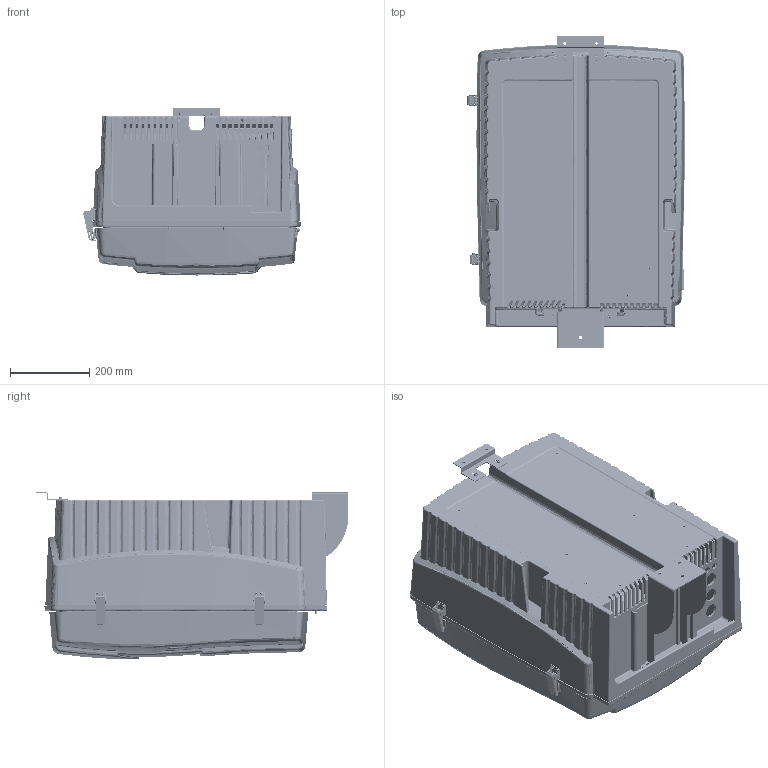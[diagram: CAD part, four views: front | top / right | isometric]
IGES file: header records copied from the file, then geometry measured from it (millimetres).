
Start section: SolidWorks IGES file using analytic representation for surfaces
Global section: file name: G:\EGK\USER\Sabine Krause\Public Group\meine_PDF\LXV422_TD_00000__001.IGS; native system: SolidWorks 2014; preprocessor: SolidWorks 2014; author: skrause; date: 150924.122007; units: millimetre
Bounding box: 547.74 x 786.5 x 420.44 mm (x, y, z)
Surface area: 9371144.6 mm2 (no closed solid volume)
Topology: 0 solids, 0 shells, 8610 faces, 107344 edges, 107079 vertices
Faces by surface type: bspline 4785, revolution 3825
